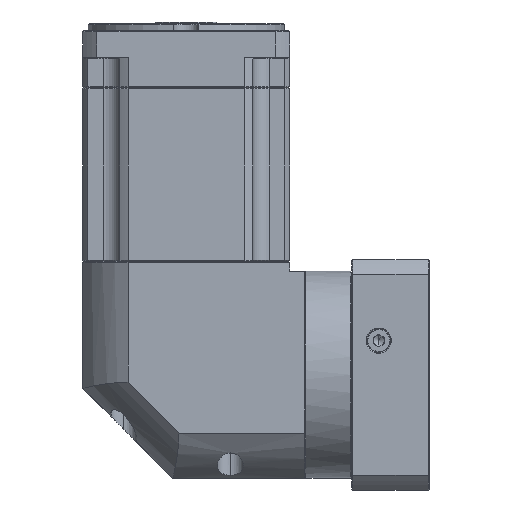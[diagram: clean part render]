
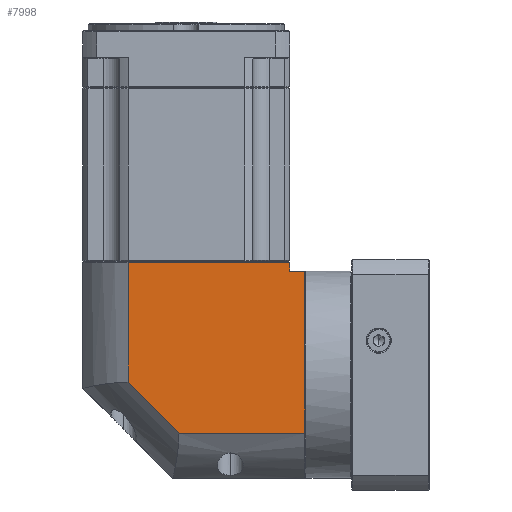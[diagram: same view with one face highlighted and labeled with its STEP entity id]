
A CAD part, left-side view. The second image highlights one B-rep face of the part: STEP entity #7998.
In plain terms, the highlighted planar face has unit normal (-1, 0, 0).
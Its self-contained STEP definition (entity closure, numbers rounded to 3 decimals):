
#1474 = ORIENTED_EDGE ( 'NONE', *, *, #161811, .T. ) ;
#4596 = DIRECTION ( 'NONE',  ( 0., 0.707, 0.707 ) ) ;
#4806 = CARTESIAN_POINT ( 'NONE',  ( -247.009, -99.95, 95.575 ) ) ;
#5210 = LINE ( 'NONE', #114452, #35660 ) ;
#5775 = LINE ( 'NONE', #30134, #139793 ) ;
#6868 = EDGE_CURVE ( 'NONE', #11785, #22330, #150263, .T. ) ;
#7819 = LINE ( 'NONE', #163966, #24077 ) ;
#7998 = ADVANCED_FACE ( 'NONE', ( #11300 ), #112891, .F. ) ;
#9203 = EDGE_CURVE ( 'NONE', #146797, #12909, #77786, .T. ) ;
#9593 = DIRECTION ( 'NONE',  ( 0., 1., 0. ) ) ;
#11300 = FACE_OUTER_BOUND ( 'NONE', #110915, .T. ) ;
#11785 = VERTEX_POINT ( 'NONE', #134283 ) ;
#12200 = LINE ( 'NONE', #133177, #146137 ) ;
#12909 = VERTEX_POINT ( 'NONE', #134076 ) ;
#15844 = DIRECTION ( 'NONE',  ( 0., 0., 1. ) ) ;
#19269 = ORIENTED_EDGE ( 'NONE', *, *, #168089, .F. ) ;
#21043 = DIRECTION ( 'NONE',  ( 0., 1., 0. ) ) ;
#22330 = VERTEX_POINT ( 'NONE', #88981 ) ;
#24077 = VECTOR ( 'NONE', #21043, 1000. ) ;
#30134 = CARTESIAN_POINT ( 'NONE',  ( -247.009, -38.388, 0.675 ) ) ;
#35660 = VECTOR ( 'NONE', #36712, 1000. ) ;
#36712 = DIRECTION ( 'NONE',  ( 0., -1., 0. ) ) ;
#40589 = EDGE_CURVE ( 'NONE', #89932, #146797, #5775, .T. ) ;
#42934 = CARTESIAN_POINT ( 'NONE',  ( -247.009, -108.35, 102.075 ) ) ;
#47427 = VERTEX_POINT ( 'NONE', #4806 ) ;
#52486 = ORIENTED_EDGE ( 'NONE', *, *, #91219, .T. ) ;
#59142 = DIRECTION ( 'NONE',  ( 0., 0., 1. ) ) ;
#64615 = ORIENTED_EDGE ( 'NONE', *, *, #9203, .F. ) ;
#67444 = CARTESIAN_POINT ( 'NONE',  ( -247.009, -99.95, -24.425 ) ) ;
#68464 = CARTESIAN_POINT ( 'NONE',  ( -247.009, -10.05, 29.013 ) ) ;
#72210 = CARTESIAN_POINT ( 'NONE',  ( -247.009, -10.05, 102.075 ) ) ;
#73248 = VECTOR ( 'NONE', #15844, 1000. ) ;
#77786 = LINE ( 'NONE', #72210, #108249 ) ;
#80133 = VERTEX_POINT ( 'NONE', #148760 ) ;
#84645 = ORIENTED_EDGE ( 'NONE', *, *, #40589, .F. ) ;
#87327 = DIRECTION ( 'NONE',  ( 1., 0., 0. ) ) ;
#88981 = CARTESIAN_POINT ( 'NONE',  ( -247.009, -108.35, 0.675 ) ) ;
#89932 = VERTEX_POINT ( 'NONE', #102727 ) ;
#91219 = EDGE_CURVE ( 'NONE', #11785, #80133, #12200, .T. ) ;
#102727 = CARTESIAN_POINT ( 'NONE',  ( -247.009, -38.388, 0.675 ) ) ;
#107802 = LINE ( 'NONE', #67444, #73248 ) ;
#108249 = VECTOR ( 'NONE', #59142, 1000. ) ;
#110325 = ORIENTED_EDGE ( 'NONE', *, *, #6868, .F. ) ;
#110915 = EDGE_LOOP ( 'NONE', ( #64615, #84645, #149961, #110325, #52486, #1474, #19269 ) ) ;
#112891 = PLANE ( 'NONE',  #162527 ) ;
#114452 = CARTESIAN_POINT ( 'NONE',  ( -247.009, 15.05, 95.575 ) ) ;
#132088 = VECTOR ( 'NONE', #133671, 1000. ) ;
#133177 = CARTESIAN_POINT ( 'NONE',  ( -247.009, -99.95, 90.575 ) ) ;
#133671 = DIRECTION ( 'NONE',  ( 0., 0., -1. ) ) ;
#134076 = CARTESIAN_POINT ( 'NONE',  ( -247.009, -10.05, 95.575 ) ) ;
#134283 = CARTESIAN_POINT ( 'NONE',  ( -247.009, -108.35, 90.575 ) ) ;
#139793 = VECTOR ( 'NONE', #4596, 1000. ) ;
#146137 = VECTOR ( 'NONE', #159211, 1000. ) ;
#146797 = VERTEX_POINT ( 'NONE', #68464 ) ;
#148760 = CARTESIAN_POINT ( 'NONE',  ( -247.009, -99.95, 90.575 ) ) ;
#149101 = EDGE_CURVE ( 'NONE', #22330, #89932, #7819, .T. ) ;
#149961 = ORIENTED_EDGE ( 'NONE', *, *, #149101, .F. ) ;
#150263 = LINE ( 'NONE', #42934, #132088 ) ;
#159211 = DIRECTION ( 'NONE',  ( 0., 1., 0. ) ) ;
#161811 = EDGE_CURVE ( 'NONE', #80133, #47427, #107802, .T. ) ;
#162527 = AXIS2_PLACEMENT_3D ( 'NONE', #164986, #87327, #9593 ) ;
#163966 = CARTESIAN_POINT ( 'NONE',  ( -247.009, 15.05, 0.675 ) ) ;
#164986 = CARTESIAN_POINT ( 'NONE',  ( -247.009, 15.05, 102.075 ) ) ;
#168089 = EDGE_CURVE ( 'NONE', #12909, #47427, #5210, .T. ) ;
